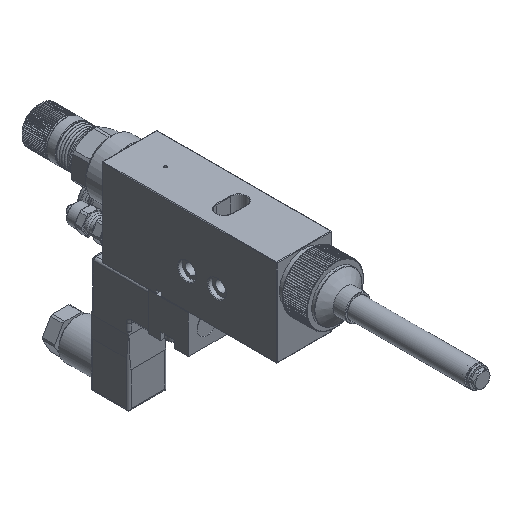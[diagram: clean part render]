
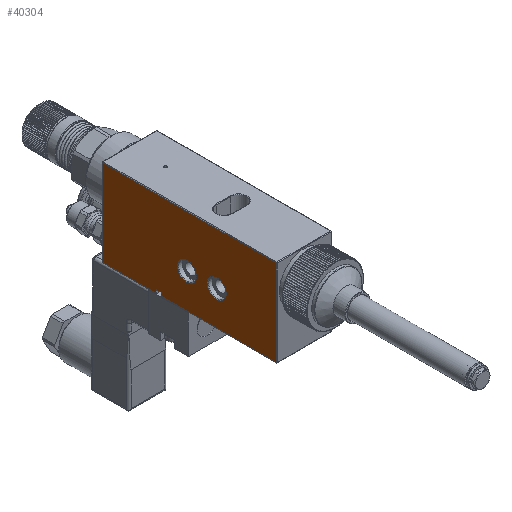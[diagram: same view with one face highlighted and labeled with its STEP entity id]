
A CAD part, isometric view. The second image highlights one B-rep face of the part: STEP entity #40304.
In plain terms, the highlighted planar face has unit normal (-1, 0, 0).
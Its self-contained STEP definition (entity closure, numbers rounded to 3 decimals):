
#689 = DIRECTION ( 'NONE',  ( 0., -1., 0. ) ) ;
#1254 = VECTOR ( 'NONE', #57125, 1000. ) ;
#2034 = FACE_BOUND ( 'NONE', #54788, .T. ) ;
#2043 = DIRECTION ( 'NONE',  ( 0., 1., 0. ) ) ;
#2887 = CARTESIAN_POINT ( 'NONE',  ( -11., 53.3, -23. ) ) ;
#3317 = CARTESIAN_POINT ( 'NONE',  ( -11., 53.3, -23. ) ) ;
#3547 = EDGE_CURVE ( 'NONE', #3636, #15152, #4102, .T. ) ;
#3636 = VERTEX_POINT ( 'NONE', #4721 ) ;
#4054 = ORIENTED_EDGE ( 'NONE', *, *, #30426, .T. ) ;
#4102 = LINE ( 'NONE', #33582, #39237 ) ;
#4257 = CARTESIAN_POINT ( 'NONE',  ( -11., 7.2, -24.3 ) ) ;
#4721 = CARTESIAN_POINT ( 'NONE',  ( -11., 55.3, -23. ) ) ;
#5496 = VERTEX_POINT ( 'NONE', #20050 ) ;
#5937 = EDGE_CURVE ( 'NONE', #22614, #59407, #21318, .T. ) ;
#6264 = VECTOR ( 'NONE', #2043, 1000. ) ;
#7008 = CARTESIAN_POINT ( 'NONE',  ( -11., 77., 10.5 ) ) ;
#7434 = ORIENTED_EDGE ( 'NONE', *, *, #41584, .F. ) ;
#7959 = CARTESIAN_POINT ( 'NONE',  ( -11., 31., -10.5 ) ) ;
#8234 = AXIS2_PLACEMENT_3D ( 'NONE', #7959, #26884, #55691 ) ;
#8300 = CARTESIAN_POINT ( 'NONE',  ( -11., 7.2, 10.5 ) ) ;
#8374 = AXIS2_PLACEMENT_3D ( 'NONE', #53851, #27487, #12884 ) ;
#10375 = ORIENTED_EDGE ( 'NONE', *, *, #43647, .T. ) ;
#12343 = DIRECTION ( 'NONE',  ( 0., 0., 1. ) ) ;
#12361 = CIRCLE ( 'NONE', #8374, 3.75 ) ;
#12884 = DIRECTION ( 'NONE',  ( 0., 0., 1. ) ) ;
#13861 = VERTEX_POINT ( 'NONE', #29814 ) ;
#15152 = VERTEX_POINT ( 'NONE', #3317 ) ;
#15471 = DIRECTION ( 'NONE',  ( 0., -1., 0. ) ) ;
#15742 = ORIENTED_EDGE ( 'NONE', *, *, #31140, .F. ) ;
#16292 = DIRECTION ( 'NONE',  ( -1., 0., 0. ) ) ;
#16638 = CARTESIAN_POINT ( 'NONE',  ( -11., 77., -24.3 ) ) ;
#17227 = VERTEX_POINT ( 'NONE', #30590 ) ;
#17938 = ORIENTED_EDGE ( 'NONE', *, *, #5937, .T. ) ;
#19876 = ORIENTED_EDGE ( 'NONE', *, *, #50078, .T. ) ;
#20050 = CARTESIAN_POINT ( 'NONE',  ( -11., 31., -6.75 ) ) ;
#21301 = CARTESIAN_POINT ( 'NONE',  ( -11., 76.8, 10.3 ) ) ;
#21318 = LINE ( 'NONE', #16638, #37242 ) ;
#21700 = VECTOR ( 'NONE', #12343, 1000. ) ;
#22113 = LINE ( 'NONE', #2887, #49798 ) ;
#22158 = EDGE_CURVE ( 'NONE', #53180, #13861, #58766, .T. ) ;
#22614 = VERTEX_POINT ( 'NONE', #58618 ) ;
#25916 = PLANE ( 'NONE',  #55732 ) ;
#26884 = DIRECTION ( 'NONE',  ( 1., 0., 0. ) ) ;
#27487 = DIRECTION ( 'NONE',  ( 1., 0., 0. ) ) ;
#29542 = LINE ( 'NONE', #34203, #1254 ) ;
#29814 = CARTESIAN_POINT ( 'NONE',  ( -11., 53.3, -24.3 ) ) ;
#30426 = EDGE_CURVE ( 'NONE', #53180, #32906, #58839, .T. ) ;
#30590 = CARTESIAN_POINT ( 'NONE',  ( -11., 43., -6.75 ) ) ;
#31063 = VECTOR ( 'NONE', #15471, 1000. ) ;
#31140 = EDGE_CURVE ( 'NONE', #22614, #49547, #51263, .T. ) ;
#31742 = DIRECTION ( 'NONE',  ( 0., 0., -1. ) ) ;
#32479 = EDGE_LOOP ( 'NONE', ( #19876, #47233, #44029, #53893, #4054, #7434, #15742, #17938 ) ) ;
#32906 = VERTEX_POINT ( 'NONE', #50822 ) ;
#33582 = CARTESIAN_POINT ( 'NONE',  ( -11., 77., -23. ) ) ;
#34203 = CARTESIAN_POINT ( 'NONE',  ( -11., 55.3, -23. ) ) ;
#34622 = DIRECTION ( 'NONE',  ( 0., 0., 1. ) ) ;
#37242 = VECTOR ( 'NONE', #40232, 1000. ) ;
#37337 = CARTESIAN_POINT ( 'NONE',  ( -11., 76.8, 10.5 ) ) ;
#37545 = EDGE_CURVE ( 'NONE', #5496, #5496, #48805, .T. ) ;
#39237 = VECTOR ( 'NONE', #689, 1000. ) ;
#40232 = DIRECTION ( 'NONE',  ( 0., -1., 0. ) ) ;
#40304 = ADVANCED_FACE ( 'NONE', ( #58456, #2034, #49475 ), #25916, .T. ) ;
#40737 = EDGE_CURVE ( 'NONE', #15152, #13861, #22113, .T. ) ;
#41584 = EDGE_CURVE ( 'NONE', #49547, #32906, #43696, .T. ) ;
#43647 = EDGE_CURVE ( 'NONE', #17227, #17227, #12361, .T. ) ;
#43696 = LINE ( 'NONE', #57947, #31063 ) ;
#44029 = ORIENTED_EDGE ( 'NONE', *, *, #40737, .T. ) ;
#47233 = ORIENTED_EDGE ( 'NONE', *, *, #3547, .T. ) ;
#47841 = EDGE_LOOP ( 'NONE', ( #49217 ) ) ;
#48805 = CIRCLE ( 'NONE', #8234, 3.75 ) ;
#49180 = CARTESIAN_POINT ( 'NONE',  ( -11., 77., -24.3 ) ) ;
#49217 = ORIENTED_EDGE ( 'NONE', *, *, #37545, .T. ) ;
#49475 = FACE_OUTER_BOUND ( 'NONE', #32479, .T. ) ;
#49547 = VERTEX_POINT ( 'NONE', #21301 ) ;
#49798 = VECTOR ( 'NONE', #31742, 1000. ) ;
#50078 = EDGE_CURVE ( 'NONE', #59407, #3636, #29542, .T. ) ;
#50822 = CARTESIAN_POINT ( 'NONE',  ( -11., 7.2, 10.3 ) ) ;
#51263 = LINE ( 'NONE', #37337, #59326 ) ;
#53180 = VERTEX_POINT ( 'NONE', #4257 ) ;
#53851 = CARTESIAN_POINT ( 'NONE',  ( -11., 43., -10.5 ) ) ;
#53893 = ORIENTED_EDGE ( 'NONE', *, *, #22158, .F. ) ;
#54788 = EDGE_LOOP ( 'NONE', ( #10375 ) ) ;
#55691 = DIRECTION ( 'NONE',  ( 0., 0., 1. ) ) ;
#55732 = AXIS2_PLACEMENT_3D ( 'NONE', #7008, #16292, #34622 ) ;
#56220 = DIRECTION ( 'NONE',  ( 0., 0., 1. ) ) ;
#57125 = DIRECTION ( 'NONE',  ( 0., 0., 1. ) ) ;
#57947 = CARTESIAN_POINT ( 'NONE',  ( -11., 77., 10.3 ) ) ;
#58456 = FACE_BOUND ( 'NONE', #47841, .T. ) ;
#58618 = CARTESIAN_POINT ( 'NONE',  ( -11., 76.8, -24.3 ) ) ;
#58766 = LINE ( 'NONE', #49180, #6264 ) ;
#58839 = LINE ( 'NONE', #8300, #21700 ) ;
#59326 = VECTOR ( 'NONE', #56220, 1000. ) ;
#59407 = VERTEX_POINT ( 'NONE', #59445 ) ;
#59445 = CARTESIAN_POINT ( 'NONE',  ( -11., 55.3, -24.3 ) ) ;
